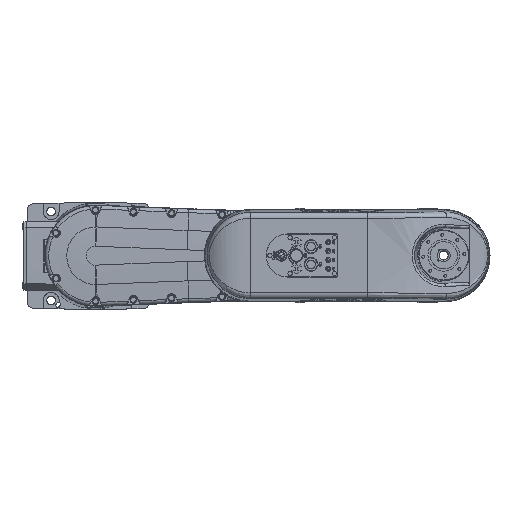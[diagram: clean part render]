
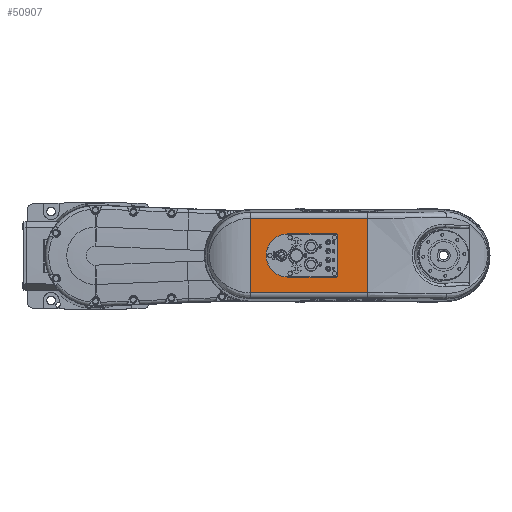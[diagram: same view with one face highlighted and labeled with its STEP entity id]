
A CAD part, top view. The second image highlights one B-rep face of the part: STEP entity #50907.
In plain terms, the highlighted planar face has unit normal (0, 0, 1).
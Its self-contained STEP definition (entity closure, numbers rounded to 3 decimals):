
#1917 = VERTEX_POINT ( 'NONE', #105392 ) ;
#2248 = CARTESIAN_POINT ( 'NONE',  ( 380.501, -34., 457.7 ) ) ;
#4461 = CARTESIAN_POINT ( 'NONE',  ( 382.5, 34., 457.7 ) ) ;
#4488 = ORIENTED_EDGE ( 'NONE', *, *, #93404, .F. ) ;
#5627 = EDGE_CURVE ( 'NONE', #12044, #47694, #22919, .T. ) ;
#6091 = ORIENTED_EDGE ( 'NONE', *, *, #73305, .T. ) ;
#6848 = ORIENTED_EDGE ( 'NONE', *, *, #38076, .F. ) ;
#7944 = CARTESIAN_POINT ( 'NONE',  ( 381.672, 34., 457.7 ) ) ;
#8212 = VERTEX_POINT ( 'NONE', #97788 ) ;
#9027 = VERTEX_POINT ( 'NONE', #16627 ) ;
#9840 = VERTEX_POINT ( 'NONE', #65572 ) ;
#12044 = VERTEX_POINT ( 'NONE', #37473 ) ;
#12443 = EDGE_LOOP ( 'NONE', ( #33132, #103252, #6848, #77263, #64354, #48147 ) ) ;
#16627 = CARTESIAN_POINT ( 'NONE',  ( 382.5, -32.001, 457.7 ) ) ;
#16752 = EDGE_CURVE ( 'NONE', #9840, #105356, #88361, .T. ) ;
#16766 = ORIENTED_EDGE ( 'NONE', *, *, #81135, .T. ) ;
#22300 = CARTESIAN_POINT ( 'NONE',  ( 382.5, 32.001, 457.7 ) ) ;
#22919 = LINE ( 'NONE', #101860, #107313 ) ;
#24456 = CARTESIAN_POINT ( 'NONE',  ( 380.501, 34., 457.7 ) ) ;
#24957 = AXIS2_PLACEMENT_3D ( 'NONE', #108364, #82950, #57970 ) ;
#25612 = CARTESIAN_POINT ( 'NONE',  ( 430., -59.156, 457.7 ) ) ;
#25930 = LINE ( 'NONE', #65799, #97115 ) ;
#26279 = VECTOR ( 'NONE', #45304, 1000. ) ;
#27290 = CIRCLE ( 'NONE', #24957, 34. ) ;
#27673 = LINE ( 'NONE', #4461, #26279 ) ;
#28674 = DIRECTION ( 'NONE',  ( -1., 0., 0. ) ) ;
#30275 = CARTESIAN_POINT ( 'NONE',  ( 382.5, 34., 457.7 ) ) ;
#33132 = ORIENTED_EDGE ( 'NONE', *, *, #109115, .F. ) ;
#35275 = LINE ( 'NONE', #95367, #61741 ) ;
#37121 = LINE ( 'NONE', #68752, #54302 ) ;
#37234 = EDGE_CURVE ( 'NONE', #9027, #93728, #78560, .T. ) ;
#37473 = CARTESIAN_POINT ( 'NONE',  ( 245., -59.156, 457.7 ) ) ;
#38076 = EDGE_CURVE ( 'NONE', #9027, #105356, #27673, .T. ) ;
#40017 = CARTESIAN_POINT ( 'NONE',  ( 382.5, -33.172, 457.7 ) ) ;
#42644 = DIRECTION ( 'NONE',  ( 1., 0., 0. ) ) ;
#43850 = LINE ( 'NONE', #30275, #79332 ) ;
#45304 = DIRECTION ( 'NONE',  ( 0., 1., 0. ) ) ;
#45419 = DIRECTION ( 'NONE',  ( -1., 0., 0. ) ) ;
#47694 = VERTEX_POINT ( 'NONE', #25612 ) ;
#48147 = ORIENTED_EDGE ( 'NONE', *, *, #78487, .F. ) ;
#49613 = DIRECTION ( 'NONE',  ( 0., 1., 0. ) ) ;
#50907 = ADVANCED_FACE ( 'NONE', ( #83889, #106338 ), #97009, .T. ) ;
#53082 = DIRECTION ( 'NONE',  ( 0., 1., 0. ) ) ;
#54302 = VECTOR ( 'NONE', #42644, 1000. ) ;
#55831 = DIRECTION ( 'NONE',  ( 0., -1., 0. ) ) ;
#57970 = DIRECTION ( 'NONE',  ( 0., 1., 0. ) ) ;
#61741 = VECTOR ( 'NONE', #28674, 1000. ) ;
#64354 = ORIENTED_EDGE ( 'NONE', *, *, #64861, .F. ) ;
#64861 = EDGE_CURVE ( 'NONE', #101014, #93728, #37121, .T. ) ;
#65572 = CARTESIAN_POINT ( 'NONE',  ( 380.501, 34., 457.7 ) ) ;
#65799 = CARTESIAN_POINT ( 'NONE',  ( 430., -705.455, 457.7 ) ) ;
#68752 = CARTESIAN_POINT ( 'NONE',  ( 382.5, -34., 457.7 ) ) ;
#68818 = EDGE_LOOP ( 'NONE', ( #6091, #16766, #4488, #103133 ) ) ;
#73305 = EDGE_CURVE ( 'NONE', #47694, #1917, #25930, .T. ) ;
#76434 = VECTOR ( 'NONE', #53082, 1000. ) ;
#77263 = ORIENTED_EDGE ( 'NONE', *, *, #37234, .T. ) ;
#78487 = EDGE_CURVE ( 'NONE', #8212, #101014, #27290, .T. ) ;
#78560 =( BOUNDED_CURVE ( )  B_SPLINE_CURVE ( 3, ( #91534, #40017, #98196, #106723 ),
 .UNSPECIFIED., .F., .F. ) 
 B_SPLINE_CURVE_WITH_KNOTS ( ( 4, 4 ),
 ( 2.357, 3.927 ),
 .UNSPECIFIED. ) 
 CURVE ( )  GEOMETRIC_REPRESENTATION_ITEM ( )  RATIONAL_B_SPLINE_CURVE ( ( 1., 0.805, 0.805, 1. ) ) 
 REPRESENTATION_ITEM ( '' )  );
#79188 = CARTESIAN_POINT ( 'NONE',  ( 303.5, -34., 457.7 ) ) ;
#79332 = VECTOR ( 'NONE', #45419, 1000. ) ;
#80432 = DIRECTION ( 'NONE',  ( 0., 0., 1. ) ) ;
#81135 = EDGE_CURVE ( 'NONE', #1917, #104891, #35275, .T. ) ;
#82950 = DIRECTION ( 'NONE',  ( 0., 0., 1. ) ) ;
#83889 = FACE_OUTER_BOUND ( 'NONE', #68818, .T. ) ;
#84929 = DIRECTION ( 'NONE',  ( 1., 0., 0. ) ) ;
#88361 =( BOUNDED_CURVE ( )  B_SPLINE_CURVE ( 3, ( #24456, #7944, #91509, #107751 ),
 .UNSPECIFIED., .F., .F. ) 
 B_SPLINE_CURVE_WITH_KNOTS ( ( 4, 4 ),
 ( 2.357, 3.927 ),
 .UNSPECIFIED. ) 
 CURVE ( )  GEOMETRIC_REPRESENTATION_ITEM ( )  RATIONAL_B_SPLINE_CURVE ( ( 1., 0.805, 0.805, 1. ) ) 
 REPRESENTATION_ITEM ( '' )  );
#91509 = CARTESIAN_POINT ( 'NONE',  ( 382.5, 33.172, 457.7 ) ) ;
#91534 = CARTESIAN_POINT ( 'NONE',  ( 382.5, -32.001, 457.7 ) ) ;
#92715 = CARTESIAN_POINT ( 'NONE',  ( 245., 59.156, 457.7 ) ) ;
#93404 = EDGE_CURVE ( 'NONE', #12044, #104891, #98871, .T. ) ;
#93728 = VERTEX_POINT ( 'NONE', #2248 ) ;
#93998 = AXIS2_PLACEMENT_3D ( 'NONE', #106629, #80432, #55831 ) ;
#95042 = CARTESIAN_POINT ( 'NONE',  ( 245., -705.242, 457.7 ) ) ;
#95367 = CARTESIAN_POINT ( 'NONE',  ( 245., 59.156, 457.7 ) ) ;
#97009 = PLANE ( 'NONE',  #93998 ) ;
#97115 = VECTOR ( 'NONE', #49613, 1000. ) ;
#97788 = CARTESIAN_POINT ( 'NONE',  ( 303.5, 34., 457.7 ) ) ;
#98196 = CARTESIAN_POINT ( 'NONE',  ( 381.672, -34., 457.7 ) ) ;
#98871 = LINE ( 'NONE', #95042, #76434 ) ;
#101014 = VERTEX_POINT ( 'NONE', #79188 ) ;
#101860 = CARTESIAN_POINT ( 'NONE',  ( 430., -59.156, 457.7 ) ) ;
#103133 = ORIENTED_EDGE ( 'NONE', *, *, #5627, .T. ) ;
#103252 = ORIENTED_EDGE ( 'NONE', *, *, #16752, .T. ) ;
#104891 = VERTEX_POINT ( 'NONE', #92715 ) ;
#105356 = VERTEX_POINT ( 'NONE', #22300 ) ;
#105392 = CARTESIAN_POINT ( 'NONE',  ( 430., 59.156, 457.7 ) ) ;
#106338 = FACE_BOUND ( 'NONE', #12443, .T. ) ;
#106629 = CARTESIAN_POINT ( 'NONE',  ( 245., 0., 457.7 ) ) ;
#106723 = CARTESIAN_POINT ( 'NONE',  ( 380.501, -34., 457.7 ) ) ;
#107313 = VECTOR ( 'NONE', #84929, 1000. ) ;
#107751 = CARTESIAN_POINT ( 'NONE',  ( 382.5, 32.001, 457.7 ) ) ;
#108364 = CARTESIAN_POINT ( 'NONE',  ( 303.5, 0., 457.7 ) ) ;
#109115 = EDGE_CURVE ( 'NONE', #9840, #8212, #43850, .T. ) ;
